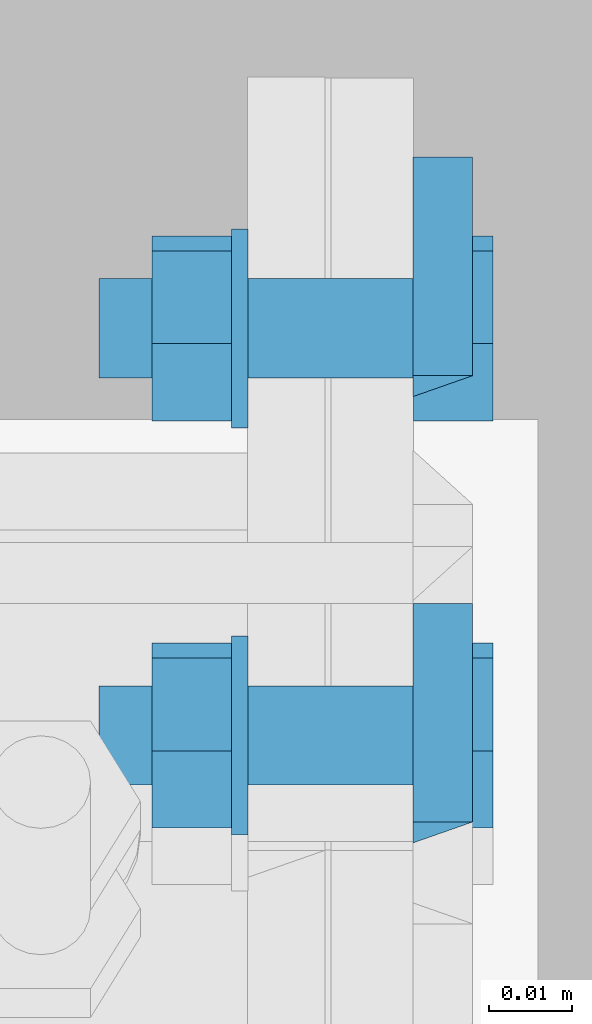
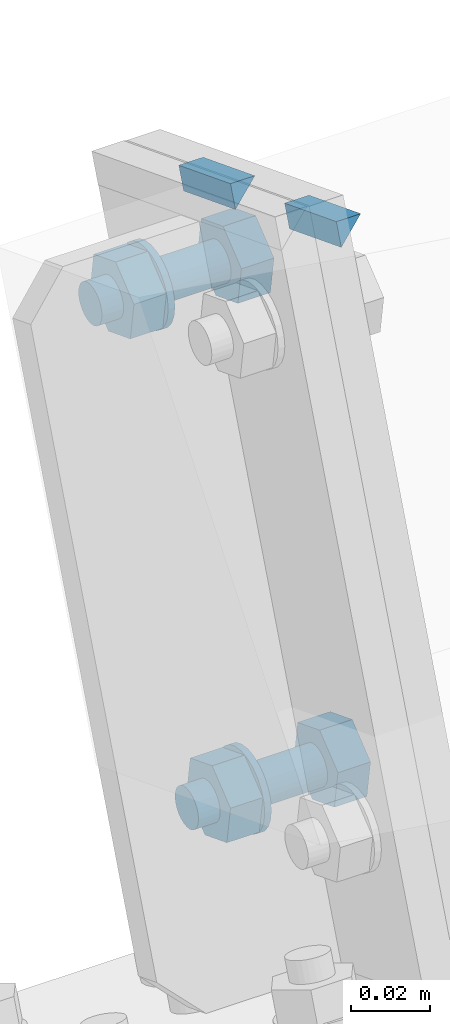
# One storey, part 43 of 72: 8 mechanical fasteners, 4 fasteners.
"""IFC4 building model written with IfcOpenShell, lengths in metres."""

from ifc_helpers import new_model, si_unit, frame, origin_with_axes, place, context, project, spatial, polyline, outline, extrude, type_object, element, save


model = new_model("IFC4")

# Units and contexts
model_context = context("Model", 3, precision=1e-05, world=origin_with_axes())
ifc_project = project(units=[si_unit("LENGTHUNIT", "METRE"), si_unit("AREAUNIT", "SQUARE_METRE"), si_unit("VOLUMEUNIT", "CUBIC_METRE"), si_unit("MASSUNIT", "GRAM", prefix="KILO"), si_unit("TIMEUNIT", "SECOND"), si_unit("PLANEANGLEUNIT", "RADIAN"), si_unit("SOLIDANGLEUNIT", "STERADIAN"), si_unit("THERMODYNAMICTEMPERATUREUNIT", "DEGREE_CELSIUS")], contexts=[model_context])

# Site, building, storey
placement_1 = place(None, origin_with_axes())
site = spatial("IfcSite", under=ifc_project, at=placement_1, Name="Italia", CompositionType="ELEMENT")
building = spatial("IfcBuilding", under=site, at=placement_1, Name="Uffici", CompositionType="ELEMENT")
storey = spatial("IfcBuildingStorey", under=building, at=placement_1, Name="Storey 0", CompositionType="ELEMENT", Elevation=0.0)

# Fasteners
fastener_type_1 = type_object("IfcFastenerType", Name="Collegamento 0206_0207", PredefinedType="WELD")
placement_2 = place(placement_1, origin_with_axes())
fastener_1_placement = place(placement_2, origin_with_axes())
element("IfcFastener", 1, at=fastener_1_placement, inside=storey, type_object=fastener_type_1, Name="Collegamento 0206_0207", context=model_context, shape_type="SweptSolid", body=[
    extrude(outline(polyline([(0.0, 0.0), (-0.00717336, 0.00695801), (0.0, 0.00695801), (0.0, 0.0)])), frame((0.07495, 4.90818, 5.3203), z_axis=(0.0, 0.932385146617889, -0.361466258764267), x_axis=(-1.0, 0.0, 0.0)), (0.0, 0.0, 1.0), 0.0283003),
])
fastener_type_2 = type_object("IfcFastenerType", Name="Collegamento 0206_0207", PredefinedType="WELD")
fastener_2_placement = place(placement_2, origin_with_axes())
element("IfcFastener", 2, at=fastener_2_placement, inside=storey, type_object=fastener_type_2, Name="Collegamento 0206_0207", context=model_context, shape_type="SweptSolid", body=[
    extrude(outline(polyline([(0.0, 0.0), (-0.00717336, 0.00695848), (0.0, 0.00695848), (0.0, 0.0)])), frame((0.07495, 4.85429, 5.34119), z_axis=(0.0, 0.932388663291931, -0.361457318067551), x_axis=(-1.0, 0.0, 0.0)), (0.0, 0.0, 1.0), 0.0282996),
])
fastener_type_3 = type_object("IfcFastenerType", Name="Collegamento 0206_0207", PredefinedType="WELD")
fastener_3_placement = place(placement_2, origin_with_axes())
element("IfcFastener", 3, at=fastener_3_placement, inside=storey, type_object=fastener_type_3, Name="Collegamento 0206_0207", context=model_context, shape_type="SweptSolid", body=[
    extrude(outline(polyline([(0.0, 0.0), (-0.00717336, 0.00695801), (0.0, 0.00695801), (0.0, 0.0)])), frame((0.07495, 4.90818, 5.3203), z_axis=(0.0, 0.932385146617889, -0.361466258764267), x_axis=(-1.0, 0.0, 0.0)), (0.0, 0.0, 1.0), 0.0283003),
])
fastener_type_4 = type_object("IfcFastenerType", Name="Collegamento 0206_0207", PredefinedType="WELD")
fastener_4_placement = place(placement_2, origin_with_axes())
element("IfcFastener", 4, at=fastener_4_placement, inside=storey, type_object=fastener_type_4, Name="Collegamento 0206_0207", context=model_context, shape_type="SweptSolid", body=[
    extrude(outline(polyline([(0.0, 0.0), (-0.00717336, 0.00695848), (0.0, 0.00695848), (0.0, 0.0)])), frame((0.07495, 4.85429, 5.34119), z_axis=(0.0, 0.932388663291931, -0.361457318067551), x_axis=(-1.0, 0.0, 0.0)), (0.0, 0.0, 1.0), 0.0282996),
])

# Mechanical fasteners
mechanical_fastener_type_1 = type_object("IfcMechanicalFastenerType", Name="Collegamento 0206_0207", PredefinedType="BOLT")
mechanical_fastener_1_placement = place(placement_2, origin_with_axes())
element("IfcMechanicalFastener", 5, at=mechanical_fastener_1_placement, inside=storey, type_object=mechanical_fastener_type_1, Name="Collegamento 0206_0207", NominalDiameter=0.0119998, context=model_context, shape_type="SweptSolid", body=[
    extrude(outline(polyline([(0.0, 0.0), (-0.0111885, 0.00433731), (-0.0130262, 0.0161958), (-0.00367546, 0.0237164), (0.00751305, 0.0193791), (0.00935078, 0.00752068), (0.0, 0.0)])), frame((0.075, 4.86908, 5.16066), z_axis=(1.0, 0.0, 0.0), x_axis=(0.0, 1.0, 0.0)), (0.0, 0.0, 1.0), 0.0096),
])
mechanical_fastener_type_2 = type_object("IfcMechanicalFastenerType", Name="Collegamento 0206_0207", PredefinedType="BOLT")
mechanical_fastener_2_placement = place(placement_2, origin_with_axes())
element("IfcMechanicalFastener", 6, at=mechanical_fastener_2_placement, inside=storey, type_object=mechanical_fastener_type_2, Name="Collegamento 0206_0207", NominalDiameter=0.012, context=model_context, shape_type="SweptSolid", body=[
    extrude(outline(polyline([(0.0, 0.0), (-0.000204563, -0.00155306), (-0.000803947, -0.00299978), (-0.00175762, -0.00424242), (-0.00300026, -0.00519609), (-0.00444698, -0.00579548), (-0.00600004, -0.00600004), (-0.0075531, -0.00579548), (-0.00899982, -0.00519609), (-0.0102425, -0.00424242), (-0.0111961, -0.00299978), (-0.0117955, -0.00155306), (-0.0120001, 0.0), (-0.0117955, 0.00155306), (-0.0111961, 0.00299978), (-0.0102425, 0.00424242), (-0.00899982, 0.00519609), (-0.0075531, 0.00579548), (-0.00600004, 0.00600004), (-0.00444698, 0.00579548), (-0.00300026, 0.00519609), (-0.00175762, 0.00424242), (-0.000803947, 0.00299978), (-0.000204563, 0.00155306), (0.0, 0.0)])), frame((0.037, 4.87325, 5.17251), z_axis=(1.0, 0.0, 0.0), x_axis=(0.0, 1.0, 0.0)), (0.0, 0.0, 1.0), 0.038),
])
mechanical_fastener_type_3 = type_object("IfcMechanicalFastenerType", Name="Collegamento 0206_0207", PredefinedType="BOLT")
mechanical_fastener_3_placement = place(placement_2, origin_with_axes())
element("IfcMechanicalFastener", 7, at=mechanical_fastener_3_placement, inside=storey, type_object=mechanical_fastener_type_3, Name="Collegamento 0206_0207", NominalDiameter=0.0119998, context=model_context, shape_type="SweptSolid", body=[
    extrude(outline(polyline([(0.0, 0.0), (-0.0111885, 0.00433731), (-0.0130262, 0.0161958), (-0.00367546, 0.0237164), (0.00751305, 0.0193791), (0.00935078, 0.00752068), (0.0, 0.0)])), frame((0.0434, 4.86908, 5.16066), z_axis=(1.0, 0.0, 0.0), x_axis=(0.0, 1.0, 0.0)), (0.0, 0.0, 1.0), 0.0096),
])
mechanical_fastener_type_4 = type_object("IfcMechanicalFastenerType", Name="Collegamento 0206_0207", PredefinedType="BOLT")
mechanical_fastener_4_placement = place(placement_2, origin_with_axes())
element("IfcMechanicalFastener", 8, at=mechanical_fastener_4_placement, inside=storey, type_object=mechanical_fastener_type_4, Name="Collegamento 0206_0207", NominalDiameter=0.024, context=model_context, shape_type="SweptSolid", body=[
    extrude(outline(polyline([(0.0, 0.0), (-0.000409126, -0.00310564), (-0.00160789, -0.00600004), (-0.00351477, -0.00848532), (-0.00600004, -0.0103922), (-0.00889444, -0.011591), (-0.0120001, -0.0120001), (-0.0151057, -0.011591), (-0.0180001, -0.0103922), (-0.0204854, -0.00848532), (-0.0223923, -0.00600004), (-0.023591, -0.00310564), (-0.0240002, 0.0), (-0.023591, 0.00310564), (-0.0223923, 0.00600004), (-0.0204854, 0.00848532), (-0.0180001, 0.0103922), (-0.0151057, 0.011591), (-0.0120001, 0.0120001), (-0.00889444, 0.011591), (-0.00600004, 0.0103922), (-0.00351477, 0.00848532), (-0.00160789, 0.00600004), (-0.000409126, 0.00310564), (0.0, 0.0)])), frame((0.053, 4.87925, 5.17251), z_axis=(1.0, 0.0, 0.0), x_axis=(0.0, 1.0, 0.0)), (0.0, 0.0, 1.0), 0.002),
])
mechanical_fastener_type_5 = type_object("IfcMechanicalFastenerType", Name="Collegamento 0206_0207", PredefinedType="BOLT")
mechanical_fastener_5_placement = place(placement_2, origin_with_axes())
element("IfcMechanicalFastener", 9, at=mechanical_fastener_5_placement, inside=storey, type_object=mechanical_fastener_type_5, Name="Collegamento 0206_0207", NominalDiameter=0.0119998, context=model_context, shape_type="SweptSolid", body=[
    extrude(outline(polyline([(0.0, 0.0), (-0.0111885, 0.00433779), (-0.0130267, 0.0161963), (-0.00367594, 0.0237169), (0.00751257, 0.0193796), (0.00935078, 0.00752115), (0.0, 0.0)])), frame((0.075, 4.91824, 5.28746), z_axis=(1.0, 0.0, 0.0), x_axis=(0.0, 1.0, 0.0)), (0.0, 0.0, 1.0), 0.0096),
])
mechanical_fastener_type_6 = type_object("IfcMechanicalFastenerType", Name="Collegamento 0206_0207", PredefinedType="BOLT")
mechanical_fastener_6_placement = place(placement_2, origin_with_axes())
element("IfcMechanicalFastener", 10, at=mechanical_fastener_6_placement, inside=storey, type_object=mechanical_fastener_type_6, Name="Collegamento 0206_0207", NominalDiameter=0.012, context=model_context, shape_type="SweptSolid", body=[
    extrude(outline(polyline([(0.0, 0.0), (-0.000204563, -0.00155306), (-0.000803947, -0.00299978), (-0.00175762, -0.00424242), (-0.00300026, -0.00519609), (-0.00444698, -0.00579548), (-0.00600004, -0.00600004), (-0.0075531, -0.00579548), (-0.00899982, -0.00519609), (-0.0102425, -0.00424242), (-0.0111961, -0.00299978), (-0.0117955, -0.00155306), (-0.0120001, 0.0), (-0.0117955, 0.00155306), (-0.0111961, 0.00299978), (-0.0102425, 0.00424242), (-0.00899982, 0.00519609), (-0.0075531, 0.00579548), (-0.00600004, 0.00600004), (-0.00444698, 0.00579548), (-0.00300026, 0.00519609), (-0.00175762, 0.00424242), (-0.000803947, 0.00299978), (-0.000204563, 0.00155306), (0.0, 0.0)])), frame((0.037, 4.9224, 5.29932), z_axis=(1.0, 0.0, 0.0), x_axis=(0.0, 1.0, 0.0)), (0.0, 0.0, 1.0), 0.038),
])
mechanical_fastener_type_7 = type_object("IfcMechanicalFastenerType", Name="Collegamento 0206_0207", PredefinedType="BOLT")
mechanical_fastener_7_placement = place(placement_2, origin_with_axes())
element("IfcMechanicalFastener", 11, at=mechanical_fastener_7_placement, inside=storey, type_object=mechanical_fastener_type_7, Name="Collegamento 0206_0207", NominalDiameter=0.0119998, context=model_context, shape_type="SweptSolid", body=[
    extrude(outline(polyline([(0.0, 0.0), (-0.0111885, 0.00433779), (-0.0130267, 0.0161963), (-0.00367594, 0.0237169), (0.00751257, 0.0193796), (0.00935078, 0.00752115), (0.0, 0.0)])), frame((0.0434, 4.91824, 5.28746), z_axis=(1.0, 0.0, 0.0), x_axis=(0.0, 1.0, 0.0)), (0.0, 0.0, 1.0), 0.0096),
])
mechanical_fastener_type_8 = type_object("IfcMechanicalFastenerType", Name="Collegamento 0206_0207", PredefinedType="BOLT")
mechanical_fastener_8_placement = place(placement_2, origin_with_axes())
element("IfcMechanicalFastener", 12, at=mechanical_fastener_8_placement, inside=storey, type_object=mechanical_fastener_type_8, Name="Collegamento 0206_0207", NominalDiameter=0.024, context=model_context, shape_type="SweptSolid", body=[
    extrude(outline(polyline([(0.0, 0.0), (-0.000409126, -0.00310564), (-0.00160789, -0.00600004), (-0.00351477, -0.00848532), (-0.00600004, -0.0103922), (-0.00889444, -0.011591), (-0.0120001, -0.0120001), (-0.0151057, -0.011591), (-0.0180001, -0.0103922), (-0.0204854, -0.00848532), (-0.0223923, -0.00600004), (-0.023591, -0.00310564), (-0.0240002, 0.0), (-0.023591, 0.00310564), (-0.0223923, 0.00600004), (-0.0204854, 0.00848532), (-0.0180001, 0.0103922), (-0.0151057, 0.011591), (-0.0120001, 0.0120001), (-0.00889444, 0.011591), (-0.00600004, 0.0103922), (-0.00351477, 0.00848532), (-0.00160789, 0.00600004), (-0.000409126, 0.00310564), (0.0, 0.0)])), frame((0.053, 4.9284, 5.29932), z_axis=(1.0, 0.0, 0.0), x_axis=(0.0, 1.0, 0.0)), (0.0, 0.0, 1.0), 0.002),
])

save(model, "model.ifc")
